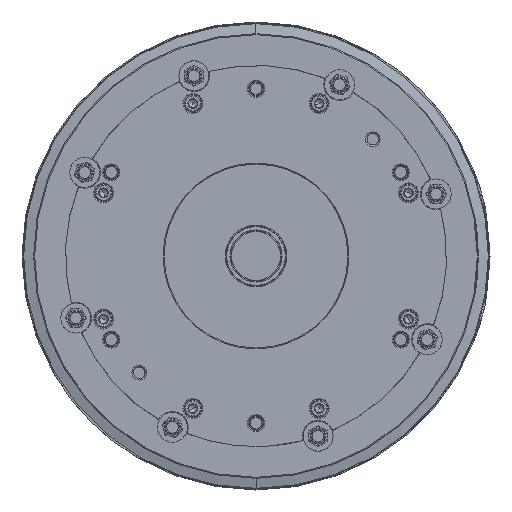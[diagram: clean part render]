
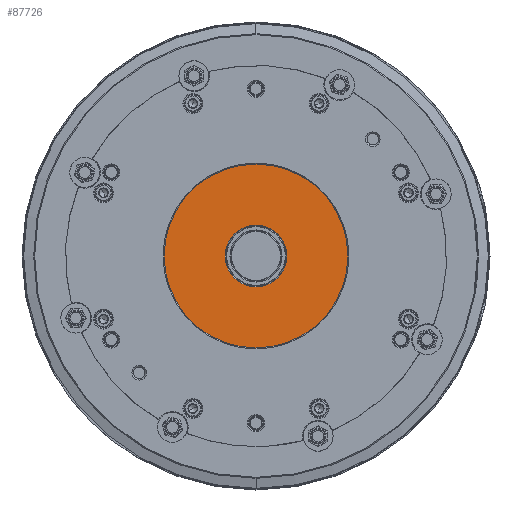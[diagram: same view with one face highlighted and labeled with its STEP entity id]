
A CAD part, left-side view. The second image highlights one B-rep face of the part: STEP entity #87726.
In plain terms, the highlighted planar face has unit normal (-1, 0, 0).
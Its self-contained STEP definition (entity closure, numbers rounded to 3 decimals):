
#4091 = DIRECTION ( 'NONE',  ( 1., 0., 0. ) ) ;
#13954 = FACE_OUTER_BOUND ( 'NONE', #49781, .T. ) ;
#14210 = CARTESIAN_POINT ( 'NONE',  ( -109., 0., 55. ) ) ;
#15495 = CARTESIAN_POINT ( 'NONE',  ( -109., 0., -18.4 ) ) ;
#16370 = VERTEX_POINT ( 'NONE', #15495 ) ;
#16766 = EDGE_CURVE ( 'NONE', #98771, #120146, #40561, .T. ) ;
#23436 = CARTESIAN_POINT ( 'NONE',  ( -109., 18.4, 0. ) ) ;
#28925 = FACE_BOUND ( 'NONE', #80329, .T. ) ;
#31872 = AXIS2_PLACEMENT_3D ( 'NONE', #92018, #103490, #41236 ) ;
#40561 = CIRCLE ( 'NONE', #31872, 55. ) ;
#41236 = DIRECTION ( 'NONE',  ( 0., 0., -1. ) ) ;
#45159 = EDGE_CURVE ( 'NONE', #83927, #16370, #90818, .T. ) ;
#49781 = EDGE_LOOP ( 'NONE', ( #75541, #109065 ) ) ;
#51741 = DIRECTION ( 'NONE',  ( 0., 0., -1. ) ) ;
#52980 = CIRCLE ( 'NONE', #126472, 55. ) ;
#54862 = CARTESIAN_POINT ( 'NONE',  ( -109., 0., 0. ) ) ;
#57104 = CARTESIAN_POINT ( 'NONE',  ( -109., 0., 0. ) ) ;
#60018 = ORIENTED_EDGE ( 'NONE', *, *, #106369, .T. ) ;
#61268 = EDGE_CURVE ( 'NONE', #120146, #98771, #52980, .T. ) ;
#63910 = CARTESIAN_POINT ( 'NONE',  ( -109., 0., 0. ) ) ;
#75541 = ORIENTED_EDGE ( 'NONE', *, *, #61268, .F. ) ;
#76745 = DIRECTION ( 'NONE',  ( 1., 0., 0. ) ) ;
#77335 = CARTESIAN_POINT ( 'NONE',  ( -109., 0., -55. ) ) ;
#80329 = EDGE_LOOP ( 'NONE', ( #124758, #60018 ) ) ;
#83692 = DIRECTION ( 'NONE',  ( 0., 0., 1. ) ) ;
#83927 = VERTEX_POINT ( 'NONE', #106941 ) ;
#84352 = DIRECTION ( 'NONE',  ( -1., 0., 0. ) ) ;
#84384 = CIRCLE ( 'NONE', #88771, 18.4 ) ;
#84852 = DIRECTION ( 'NONE',  ( 1., 0., 0. ) ) ;
#87726 = ADVANCED_FACE ( 'NONE', ( #28925, #13954 ), #114813, .T. ) ;
#88771 = AXIS2_PLACEMENT_3D ( 'NONE', #57104, #76745, #117989 ) ;
#90818 = CIRCLE ( 'NONE', #129710, 18.4 ) ;
#92018 = CARTESIAN_POINT ( 'NONE',  ( -109., 0., 0. ) ) ;
#93626 = AXIS2_PLACEMENT_3D ( 'NONE', #23436, #84352, #83692 ) ;
#98771 = VERTEX_POINT ( 'NONE', #14210 ) ;
#103490 = DIRECTION ( 'NONE',  ( 1., 0., 0. ) ) ;
#106369 = EDGE_CURVE ( 'NONE', #16370, #83927, #84384, .T. ) ;
#106941 = CARTESIAN_POINT ( 'NONE',  ( -109., 0., 18.4 ) ) ;
#109065 = ORIENTED_EDGE ( 'NONE', *, *, #16766, .F. ) ;
#114813 = PLANE ( 'NONE',  #93626 ) ;
#116423 = DIRECTION ( 'NONE',  ( 0., 0., -1. ) ) ;
#117989 = DIRECTION ( 'NONE',  ( 0., 0., -1. ) ) ;
#120146 = VERTEX_POINT ( 'NONE', #77335 ) ;
#124758 = ORIENTED_EDGE ( 'NONE', *, *, #45159, .T. ) ;
#126472 = AXIS2_PLACEMENT_3D ( 'NONE', #63910, #84852, #51741 ) ;
#129710 = AXIS2_PLACEMENT_3D ( 'NONE', #54862, #4091, #116423 ) ;
